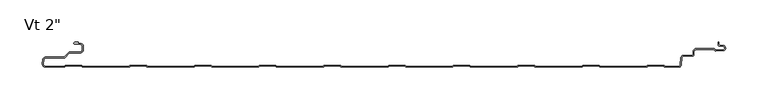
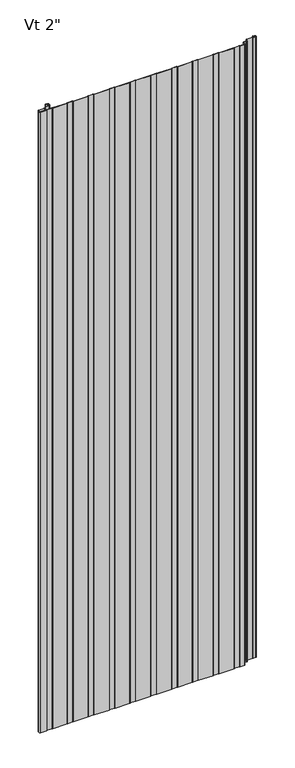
"""IFC4 building model written with IfcOpenShell, lengths in millimetres: plate geometry."""

from ifc_helpers import new_model, si_unit, point, frame_2d, origin, origin_with_axes, place, context, project, spatial, polyline, circle_curve, trimmed, segment, composite_curve, outline, extrude, source, transform, mapped, element, save


def plate_7d57a904(model_context):
    return source(origin(), model_context, "Body", "SweptSolid", [
        extrude(outline(composite_curve([segment(polyline([(-391.6415934, -50.7997351), (-413.4521176, -50.7997351)]), True, "CONTINUOUS"), segment(trimmed(circle_curve(frame_2d((-413.4521176, -47.2294958)), 3.5702393), [point((-413.4521176, -50.7997351))], [point((-417.008762, -46.9182254))], False, "CARTESIAN"), True, "CONTINUOUS"), segment(polyline([(-417.008762, -46.9182254), (-416.5690675, -41.8941788)]), True, "CONTINUOUS"), segment(trimmed(circle_curve(frame_2d((-412.9198392, -42.5049799)), 3.6999926), [point((-416.5690675, -41.8941788))], [point((-412.9198392, -38.8049873))], False, "CARTESIAN"), True, "CONTINUOUS"), segment(polyline([(-412.9198392, -38.8049873), (-391.7773997, -38.8049873)]), True, "CONTINUOUS"), segment(trimmed(circle_curve(frame_2d((-391.7773997, -37.5049899)), 1.2999974), [point((-391.7773997, -38.8049873))], [point((-390.8581627, -38.4242269))], True, "CARTESIAN"), True, "CONTINUOUS"), segment(polyline([(-390.8581627, -38.4242269), (-386.0297453, -33.5958094)]), True, "CONTINUOUS"), segment(trimmed(circle_curve(frame_2d((-384.1205608, -35.5049939)), 2.6999946), [point((-386.0297453, -33.5958094))], [point((-384.1205608, -32.8049993))], False, "CARTESIAN"), True, "CONTINUOUS"), segment(polyline([(-384.1205608, -32.8049993), (-372.3096717, -32.8049993)]), True, "CONTINUOUS"), segment(trimmed(circle_curve(frame_2d((-372.3096717, -30.455004)), 2.3499953), [point((-372.3096717, -32.8049993))], [point((-369.9596764, -30.455004))], True, "CARTESIAN"), True, "CONTINUOUS"), segment(polyline([(-369.9596764, -30.455004), (-369.9596764, -26.0550128)]), True, "CONTINUOUS"), segment(trimmed(circle_curve(frame_2d((-372.3096717, -26.0550128)), 2.3499953), [point((-369.9596764, -26.0550128))], [point((-372.3096717, -23.7050175))], True, "CARTESIAN"), True, "CONTINUOUS"), segment(polyline([(-372.3096717, -23.7050175), (-378.8289779, -23.7050175)]), True, "CONTINUOUS"), segment(trimmed(circle_curve(frame_2d((-378.7686908, -22.5065352)), 1.1999976), [point((-378.8289779, -23.7050175))], [point((-379.9683001, -22.4760133))], False, "CARTESIAN"), True, "CONTINUOUS"), segment(trimmed(circle_curve(frame_2d((-378.7686908, -22.5065352)), 1.1999976), [point((-379.9683001, -22.4760133))], [point((-378.7671761, -21.3065386))], False, "CARTESIAN"), True, "CONTINUOUS"), segment(polyline([(-378.7671761, -21.3065386), (-375.0087827, -21.3065386), (-375.0087827, -22.7050175), (-372.3096717, -22.7050175)]), True, "CONTINUOUS"), segment(trimmed(circle_curve(frame_2d((-372.3096717, -26.0550128)), 3.3499953), [point((-372.3096717, -22.7050175))], [point((-368.9596764, -26.0550128))], False, "CARTESIAN"), True, "CONTINUOUS"), segment(polyline([(-368.9596764, -26.0550128), (-368.9596764, -30.455004)]), True, "CONTINUOUS"), segment(trimmed(circle_curve(frame_2d((-372.3096717, -30.455004)), 3.3499953), [point((-368.9596764, -30.455004))], [point((-372.3096717, -33.8049993))], False, "CARTESIAN"), True, "CONTINUOUS"), segment(polyline([(-372.3096717, -33.8049993), (-384.1205608, -33.8049993)]), True, "CONTINUOUS"), segment(trimmed(circle_curve(frame_2d((-384.1205608, -35.5049939)), 1.6999946), [point((-384.1205608, -33.8049993))], [point((-385.3226385, -34.3029162))], True, "CARTESIAN"), True, "CONTINUOUS"), segment(polyline([(-385.3226385, -34.3029162), (-390.8247096, -39.8049873), (-412.9198392, -39.8049873)]), True, "CONTINUOUS"), segment(trimmed(circle_curve(frame_2d((-412.9198392, -42.5049799)), 2.6999926), [point((-412.9198392, -39.8049873))], [point((-415.5765709, -42.0235893))], True, "CARTESIAN"), True, "CONTINUOUS"), segment(polyline([(-415.5765709, -42.0235893), (-416.0125699, -47.0054102)]), True, "CONTINUOUS"), segment(trimmed(circle_curve(frame_2d((-413.4521176, -47.2294958)), 2.5702393), [point((-416.0125699, -47.0054102))], [point((-413.4521176, -49.7997351))], True, "CARTESIAN"), True, "CONTINUOUS"), segment(polyline([(-413.4521176, -49.7997351), (-391.4790962, -49.7997351), (-390.2791277, -48.5997666), (-370.5597151, -48.5997666), (-369.3594844, -49.7999973), (-315.2793527, -49.7999973), (-314.079122, -48.5997666), (-294.3597095, -48.5997666), (-293.1594787, -49.7999973), (-239.079347, -49.7999973), (-237.8791163, -48.5997666), (-218.1597038, -48.5997666), (-216.9594731, -49.7999973), (-162.8793413, -49.7999973), (-161.6791106, -48.5997666), (-141.9596981, -48.5997666), (-140.7594674, -49.7999973), (-86.6793356, -49.7999973), (-85.4791049, -48.5997666), (-65.7596924, -48.5997666), (-64.5594617, -49.7999973), (-10.4793299, -49.7999973), (-9.2790992, -48.5997666), (10.4403133, -48.5997666), (11.640544, -49.7999973), (65.7206758, -49.7999973), (66.9209065, -48.5997666), (86.640319, -48.5997666), (87.8405497, -49.7999973), (141.9206815, -49.7999973), (143.1209122, -48.5997666), (162.8403247, -48.5997666), (164.0405554, -49.7999973), (218.1206872, -49.7999973), (219.3209179, -48.5997666), (239.0403304, -48.5997666), (240.2405611, -49.7999973), (294.3206929, -49.7999973), (295.5209236, -48.5997666), (315.2403361, -48.5997666), (316.4396652, -49.7990957), (332.5384359, -49.7990957)]), True, "CONTINUOUS"), segment(trimmed(circle_curve(frame_2d((332.5384359, -47.8491016)), 1.9499941), [point((332.5384359, -49.7990957))], [point((334.4810097, -48.0190548))], True, "CARTESIAN"), True, "CONTINUOUS"), segment(polyline([(334.4810097, -48.0190548), (335.2215397, -39.5547583)]), True, "CONTINUOUS"), segment(trimmed(circle_curve(frame_2d((338.2400056, -39.8188399)), 3.0299959), [point((335.2215397, -39.5547583))], [point((338.3657441, -36.791454))], False, "CARTESIAN"), True, "CONTINUOUS"), segment(polyline([(338.3657441, -36.791454), (348.4595941, -36.791454)]), True, "CONTINUOUS"), segment(trimmed(circle_curve(frame_2d((348.4595941, -35.8423006)), 0.9491534), [point((348.4595941, -36.791454))], [point((349.4087475, -35.8423006))], True, "CARTESIAN"), True, "CONTINUOUS"), segment(polyline([(349.4087475, -35.8423006), (349.4087475, -32.7009009)]), True, "CONTINUOUS"), segment(trimmed(circle_curve(frame_2d((353.4087415, -32.7009009)), 3.999994), [point((349.4087475, -32.7009009))], [point((353.4087415, -28.7009069))], False, "CARTESIAN"), True, "CONTINUOUS"), segment(polyline([(353.4087415, -28.7009069), (374.5895515, -28.7009069), (375.7334028, -30.6821154), (384.706811, -30.326855)]), True, "CONTINUOUS"), segment(trimmed(circle_curve(frame_2d((384.6236622, -28.2266264)), 2.1018739), [point((384.706811, -30.326855))], [point((384.7037148, -26.1262775))], True, "CARTESIAN"), True, "CONTINUOUS"), segment(polyline([(384.7037148, -26.1262775), (380.6977997, -25.8818625)]), True, "CONTINUOUS"), segment(trimmed(circle_curve(frame_2d((380.8099653, -24.043489)), 1.8417922), [point((380.6977997, -25.8818625))], [point((378.9686884, -24.08705))], False, "CARTESIAN"), True, "CONTINUOUS"), segment(polyline([(378.9686884, -24.08705), (378.9686884, -21.3025034), (379.9686884, -21.3025034), (379.9686884, -24.0729362)]), True, "CONTINUOUS"), segment(trimmed(circle_curve(frame_2d((380.8099653, -24.043489)), 0.8417922), [point((379.9686884, -24.0729362))], [point((380.7587, -24.8837187))], True, "CARTESIAN"), True, "CONTINUOUS"), segment(polyline([(380.7587, -24.8837187), (384.7543204, -25.1275055)]), True, "CONTINUOUS"), segment(trimmed(circle_curve(frame_2d((384.6236622, -28.2266264)), 3.1018739), [point((384.7543204, -25.1275055))], [point((384.7463704, -31.3260723))], False, "CARTESIAN"), True, "CONTINUOUS"), segment(polyline([(384.7463704, -31.3260723), (376.0344401, -31.6709806)]), True, "CONTINUOUS"), segment(trimmed(circle_curve(frame_2d((375.987224, -30.2217524)), 1.4499971), [point((376.0344401, -31.6709806))], [point((374.7314897, -30.946751))], False, "CARTESIAN"), True, "CONTINUOUS"), segment(polyline([(374.7314897, -30.946751), (374.0122013, -29.7009069), (353.4087415, -29.7009069)]), True, "CONTINUOUS"), segment(trimmed(circle_curve(frame_2d((353.4087415, -32.7009009)), 2.999994), [point((353.4087415, -29.7009069))], [point((350.4087475, -32.7009009))], True, "CARTESIAN"), True, "CONTINUOUS"), segment(polyline([(350.4087475, -32.7009009), (350.4087475, -35.8423006)]), True, "CONTINUOUS"), segment(trimmed(circle_curve(frame_2d((348.4595941, -35.8423006)), 1.9491534), [point((350.4087475, -35.8423006))], [point((348.4595941, -37.791454))], False, "CARTESIAN"), True, "CONTINUOUS"), segment(polyline([(348.4595941, -37.791454), (338.3429135, -37.791454)]), True, "CONTINUOUS"), segment(trimmed(circle_curve(frame_2d((338.2400056, -39.8188399)), 2.0299959), [point((338.3429135, -37.791454))], [point((336.2177344, -39.6419141))], True, "CARTESIAN"), True, "CONTINUOUS"), segment(polyline([(336.2177344, -39.6419141), (335.4772044, -48.1062105)]), True, "CONTINUOUS"), segment(trimmed(circle_curve(frame_2d((332.5384359, -47.8491016)), 2.9499941), [point((335.4772044, -48.1062105))], [point((332.5384359, -50.7990957))], False, "CARTESIAN"), True, "CONTINUOUS"), segment(polyline([(332.5384359, -50.7990957), (316.6525313, -50.7990957)]), True, "CONTINUOUS"), segment(trimmed(circle_curve(frame_2d((316.6017161, -49.400021)), 1.3999972), [point((316.6525313, -50.7990957))], [point((315.5576653, -50.3327322))], False, "CARTESIAN"), True, "CONTINUOUS"), segment(polyline([(315.5576653, -50.3327322), (314.8246997, -49.5997666), (295.9340305, -49.5997666), (295.2010858, -50.3327112)]), True, "CONTINUOUS"), segment(trimmed(circle_curve(frame_2d((294.157035, -49.4000001)), 1.3999972), [point((295.2010858, -50.3327112))], [point((294.157035, -50.7999973))], False, "CARTESIAN"), True, "CONTINUOUS"), segment(polyline([(294.157035, -50.7999973), (240.4095218, -50.7999973)]), True, "CONTINUOUS"), segment(trimmed(circle_curve(frame_2d((240.4018685, -49.400021)), 1.3999972), [point((240.4095218, -50.7999973))], [point((239.3578177, -50.3327322))], False, "CARTESIAN"), True, "CONTINUOUS"), segment(polyline([(239.3578177, -50.3327322), (238.6248521, -49.5997666), (219.7341829, -49.5997666), (219.0012382, -50.3327112)]), True, "CONTINUOUS"), segment(trimmed(circle_curve(frame_2d((217.9571874, -49.4000001)), 1.3999972), [point((219.0012382, -50.3327112))], [point((217.9571874, -50.7999973))], False, "CARTESIAN"), True, "CONTINUOUS"), segment(polyline([(217.9571874, -50.7999973), (164.2096742, -50.7999973)]), True, "CONTINUOUS"), segment(trimmed(circle_curve(frame_2d((164.2020209, -49.400021)), 1.3999972), [point((164.2096742, -50.7999973))], [point((163.1579701, -50.3327322))], False, "CARTESIAN"), True, "CONTINUOUS"), segment(polyline([(163.1579701, -50.3327322), (162.4250045, -49.5997666), (143.5343353, -49.5997666), (142.8013906, -50.3327112)]), True, "CONTINUOUS"), segment(trimmed(circle_curve(frame_2d((141.7573398, -49.4000001)), 1.3999972), [point((142.8013906, -50.3327112))], [point((141.7573398, -50.7999973))], False, "CARTESIAN"), True, "CONTINUOUS"), segment(polyline([(141.7573398, -50.7999973), (88.0098266, -50.7999973)]), True, "CONTINUOUS"), segment(trimmed(circle_curve(frame_2d((88.0021733, -49.400021)), 1.3999972), [point((88.0098266, -50.7999973))], [point((86.9581225, -50.3327322))], False, "CARTESIAN"), True, "CONTINUOUS"), segment(polyline([(86.9581225, -50.3327322), (86.2251569, -49.5997666), (67.3344877, -49.5997666), (66.601543, -50.3327112)]), True, "CONTINUOUS"), segment(trimmed(circle_curve(frame_2d((65.5574922, -49.4000001)), 1.3999972), [point((66.601543, -50.3327112))], [point((65.5574922, -50.7999973))], False, "CARTESIAN"), True, "CONTINUOUS"), segment(polyline([(65.5574922, -50.7999973), (11.809979, -50.7999973)]), True, "CONTINUOUS"), segment(trimmed(circle_curve(frame_2d((11.8023257, -49.400021)), 1.3999972), [point((11.809979, -50.7999973))], [point((10.7582749, -50.3327322))], False, "CARTESIAN"), True, "CONTINUOUS"), segment(polyline([(10.7582749, -50.3327322), (10.0253093, -49.5997666), (-8.8653599, -49.5997666), (-9.5983046, -50.3327112)]), True, "CONTINUOUS"), segment(trimmed(circle_curve(frame_2d((-10.6423554, -49.4000001)), 1.3999972), [point((-9.5983046, -50.3327112))], [point((-10.6423554, -50.7999973))], False, "CARTESIAN"), True, "CONTINUOUS"), segment(polyline([(-10.6423554, -50.7999973), (-64.3898686, -50.7999973)]), True, "CONTINUOUS"), segment(trimmed(circle_curve(frame_2d((-64.3975219, -49.400021)), 1.3999972), [point((-64.3898686, -50.7999973))], [point((-65.4415727, -50.3327322))], False, "CARTESIAN"), True, "CONTINUOUS"), segment(polyline([(-65.4415727, -50.3327322), (-66.1745383, -49.5997666), (-85.0652075, -49.5997666), (-85.7981522, -50.3327112)]), True, "CONTINUOUS"), segment(trimmed(circle_curve(frame_2d((-86.842203, -49.4000001)), 1.3999972), [point((-85.7981522, -50.3327112))], [point((-86.842203, -50.7999973))], False, "CARTESIAN"), True, "CONTINUOUS"), segment(polyline([(-86.842203, -50.7999973), (-140.5897162, -50.7999973)]), True, "CONTINUOUS"), segment(trimmed(circle_curve(frame_2d((-140.5973695, -49.400021)), 1.3999972), [point((-140.5897162, -50.7999973))], [point((-141.6414203, -50.3327322))], False, "CARTESIAN"), True, "CONTINUOUS"), segment(polyline([(-141.6414203, -50.3327322), (-142.3743859, -49.5997666), (-161.2650551, -49.5997666), (-161.9979998, -50.3327112)]), True, "CONTINUOUS"), segment(trimmed(circle_curve(frame_2d((-163.0420506, -49.4000001)), 1.3999972), [point((-161.9979998, -50.3327112))], [point((-163.0420506, -50.7999973))], False, "CARTESIAN"), True, "CONTINUOUS"), segment(polyline([(-163.0420506, -50.7999973), (-216.7895638, -50.7999973)]), True, "CONTINUOUS"), segment(trimmed(circle_curve(frame_2d((-216.7972171, -49.400021)), 1.3999972), [point((-216.7895638, -50.7999973))], [point((-217.8412679, -50.3327322))], False, "CARTESIAN"), True, "CONTINUOUS"), segment(polyline([(-217.8412679, -50.3327322), (-218.5742335, -49.5997666), (-237.4649027, -49.5997666), (-238.1978474, -50.3327112)]), True, "CONTINUOUS"), segment(trimmed(circle_curve(frame_2d((-239.2418982, -49.4000001)), 1.3999972), [point((-238.1978474, -50.3327112))], [point((-239.2418982, -50.7999973))], False, "CARTESIAN"), True, "CONTINUOUS"), segment(polyline([(-239.2418982, -50.7999973), (-292.9894114, -50.7999973)]), True, "CONTINUOUS"), segment(trimmed(circle_curve(frame_2d((-292.9970647, -49.400021)), 1.3999972), [point((-292.9894114, -50.7999973))], [point((-294.0411155, -50.3327322))], False, "CARTESIAN"), True, "CONTINUOUS"), segment(polyline([(-294.0411155, -50.3327322), (-294.7740811, -49.5997666), (-313.6647503, -49.5997666), (-314.397695, -50.3327112)]), True, "CONTINUOUS"), segment(trimmed(circle_curve(frame_2d((-315.4417458, -49.4000001)), 1.3999972), [point((-314.397695, -50.3327112))], [point((-315.4417458, -50.7999973))], False, "CARTESIAN"), True, "CONTINUOUS"), segment(polyline([(-315.4417458, -50.7999973), (-369.189259, -50.7999973)]), True, "CONTINUOUS"), segment(trimmed(circle_curve(frame_2d((-369.1969123, -49.400021)), 1.3999972), [point((-369.189259, -50.7999973))], [point((-370.2409631, -50.3327322))], False, "CARTESIAN"), True, "CONTINUOUS"), segment(polyline([(-370.2409631, -50.3327322), (-370.9739287, -49.5997666), (-389.8649141, -49.5997666), (-390.5976403, -50.3324928)]), True, "CONTINUOUS"), segment(trimmed(circle_curve(frame_2d((-391.6415934, -49.399869)), 1.3998661), [point((-390.5976403, -50.3324928))], [point((-391.6415934, -50.7997351))], False, "CARTESIAN"), True, "CONTINUOUS")], self_intersect=False)), origin_with_axes(), (0.0, 0.0, 1.0), 2400.0),
    ])


if __name__ == "__main__":
    model = new_model("IFC4")
    model_context = context("Model", 3, world=origin())
    ifc_project = project(units=[si_unit("LENGTHUNIT", "METRE", prefix="MILLI")], contexts=[model_context])
    site = spatial("IfcSite", under=ifc_project)
    building = spatial("IfcBuilding", under=site)
    placement = place(None, origin())
    plate_shape = plate_7d57a904(model_context)
    element("IfcPlate", 1, ObjectType="KIP-30-Karrier-KP-R19-CP-Vt-SL_SL : Vt 2\"", at=placement, inside=building, context=model_context, shape_type="MappedRepresentation", body=[
        mapped(plate_shape, transform((0.0, 0.0, 0.0), x_axis=(1.0, 0.0, 0.0), y_axis=(0.0, 1.0, 0.0), z_axis=(0.0, 0.0, 1.0))),
    ])
    save(model, "model.ifc")
